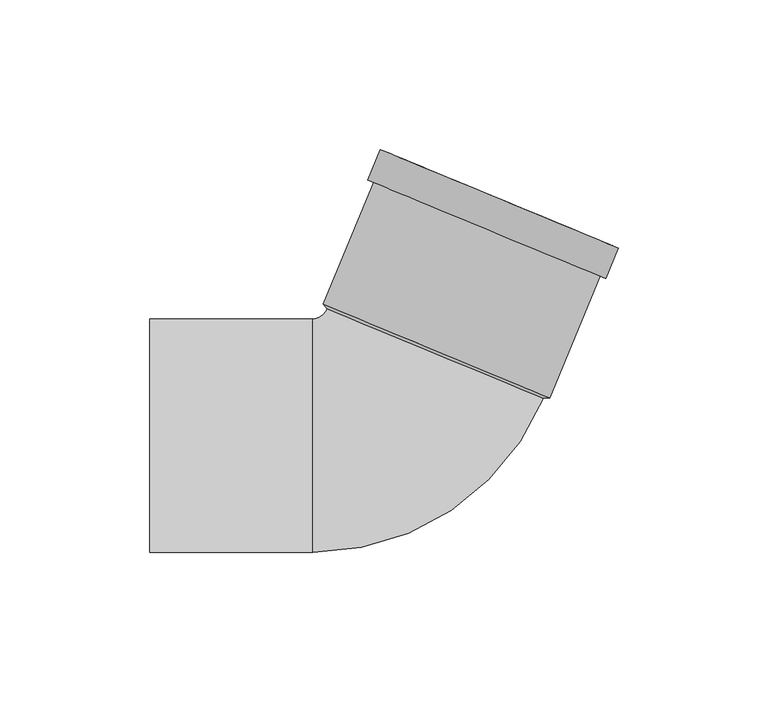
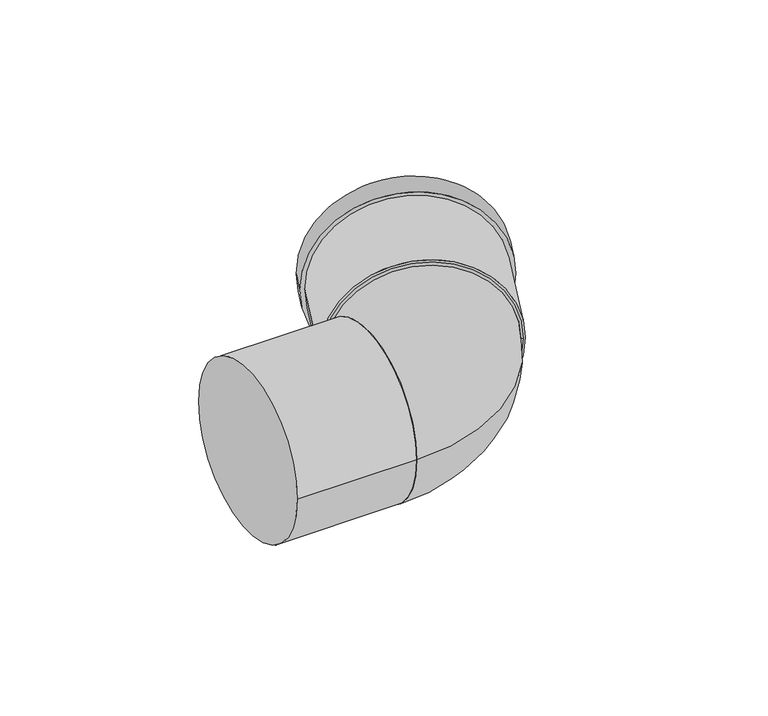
"""IFC4 building model written with IfcOpenShell, lengths in millimetres: pipe fitting geometry, Superdrain SKB Bend : Superdrain SKB Bend."""

from ifc_helpers import new_model, si_unit, point, frame, origin, origin_2d, place, context, project, spatial, polyline, circle_curve, ellipse_curve, trimmed, segment, composite_curve, outline, extrude, source, transform, mapped, element, save
from ifc_brep_helpers import plane_surface, revolved_surface, advanced_brep


def pipe_fitting_f1652b02(model_context):
    return source(origin(), model_context, "Body", "SolidModel", [
        advanced_brep(
        [(47.3587314, 12.4221803, 0.0), (-24.7038722, 42.271488, 0.0), (-29.6, -39.0, 0.0), (-29.6, 39.0, 0.0)],
        [
            (0, 1, circle_curve(frame((11.3274296, 27.3468342, 0.0), z_axis=(0.38268343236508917, 0.923879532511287, 0.0), x_axis=(-0.923879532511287, 0.38268343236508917, 0.0)), 39.0)),
            (1, 0, circle_curve(frame((11.3274296, 27.3468342, 0.0), z_axis=(0.38268343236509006, 0.9238795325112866, 0.0), x_axis=(-0.9238795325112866, 0.38268343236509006, 0.0)), 39.0)),
            (2, 3, circle_curve(frame((-29.6, 0.0, 0.0), z_axis=(-1.0, 0.0, 0.0), x_axis=(0.0, 1.0, 0.0)), 39.0)),
            (3, 2, circle_curve(frame((-29.6, 0.0, 0.0), z_axis=(-1.0, 0.0, 0.0), x_axis=(0.0, 1.0, 0.0)), 39.0)),
            (3, 1, circle_curve(frame((-29.6, 44.2995306, 0.0), z_axis=(0.0, 0.0, 1.0), x_axis=(1.0, 0.0, 0.0)), 5.2995306)),
            (0, 2, circle_curve(frame((-29.6, 44.2995306, 0.0), z_axis=(0.0, 0.0, -1.0), x_axis=(1.0, 0.0, 0.0)), 83.2995306)),
        ],
        [
            plane_surface(frame((11.3274296, 27.3468342, 0.0), z_axis=(0.38268343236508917, 0.9238795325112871, 0.0), x_axis=(0.0, 0.0, -1.0))),
            plane_surface(frame((-29.6, 0.0, 0.0), z_axis=(-1.0, 0.0, 0.0), x_axis=(0.0, 0.0, -1.0))),
            revolved_surface(trimmed(ellipse_curve(frame((14.6995306, 44.2995306, 0.0), z_axis=(0.0, -1.0, 0.0), x_axis=(-1.0, 0.0, 0.0)), 39.0, 39.0), [point((-24.3004694, 44.2995306, 0.0))], [point((53.6995306, 44.2995306, 0.0))], True, "CARTESIAN"), (-29.6, 44.2995306, 0.0), (0.0, 0.0, 1.0)),
            revolved_surface(trimmed(ellipse_curve(frame((14.6995306, 44.2995306, 0.0), z_axis=(0.0, -1.0, 0.0), x_axis=(-1.0, 0.0, 0.0)), 39.0, 39.0), [point((53.6995306, 44.2995306, 0.0))], [point((-24.3004694, 44.2995306, 0.0))], True, "CARTESIAN"), (-29.6, 44.2995306, 0.0), (0.0, 0.0, 1.0)),
        ],
        [
            (0, [[1, 2]]),
            (1, [[3, 4]]),
            (2, [[-4, 5, -1, 6]]),
            (3, [[-3, -6, -2, -5]]),
        ],
    ),
        extrude(outline(composite_curve([segment(trimmed(circle_curve(origin_2d(), 40.95), [point((0.0, 40.9500001))], [point((0.0, -40.95))], False, "CARTESIAN"), True, "CONTINUOUS"), segment(trimmed(circle_curve(origin_2d(), 40.95), [point((0.0, -40.95))], [point((0.0, 40.9500001))], False, "CARTESIAN"), True, "CONTINUOUS")], self_intersect=False), holes=[composite_curve([segment(trimmed(circle_curve(origin_2d(), 39.0), [point((0.0, 39.0))], [point((0.0, -39.0))], True, "CARTESIAN"), True, "CONTINUOUS"), segment(trimmed(circle_curve(origin_2d(), 39.0), [point((0.0, -39.0))], [point((0.0, 39.0))], True, "CARTESIAN"), True, "CONTINUOUS")], self_intersect=False)]), frame((11.710113, 28.2707137, 0.0), z_axis=(0.38268343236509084, 0.9238795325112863, 0.0), x_axis=(0.0, 0.0, 1.0)), (0.0, 0.0, 1.0), 55.0),
        extrude(outline(composite_curve([segment(trimmed(circle_curve(origin_2d(), 42.9975), [point((0.0, -42.9975))], [point((0.0, 42.9975))], False, "CARTESIAN"), True, "CONTINUOUS"), segment(trimmed(circle_curve(origin_2d(), 42.9975), [point((0.0, 42.9975))], [point((0.0, -42.9975))], False, "CARTESIAN"), True, "CONTINUOUS")], self_intersect=False), holes=[composite_curve([segment(trimmed(circle_curve(origin_2d(), 39.0), [point((0.0, -39.0))], [point((0.0, 38.9999999))], True, "CARTESIAN"), True, "CONTINUOUS"), segment(trimmed(circle_curve(origin_2d(), 39.0), [point((0.0, 38.9999999))], [point((0.0, -39.0))], True, "CARTESIAN"), True, "CONTINUOUS")], self_intersect=False)]), frame((28.5481841, 68.9214131, 0.0), z_axis=(0.382683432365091, 0.9238795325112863, 0.0), x_axis=(0.0, 0.0, 1.0)), (0.0, 0.0, 1.0), 11.0),
        advanced_brep(
        [(49.5429799, 12.5998271, 0.0), (-26.1227538, 43.9416003, 0.0), (47.3587314, 12.4221803, 0.0), (-24.7038722, 42.271488, 0.0)],
        [
            (0, 1, circle_curve(frame((11.710113, 28.2707137, 0.0), z_axis=(0.3826834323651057, 0.9238795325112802, 0.0), x_axis=(0.9238795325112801, -0.3826834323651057, 0.0)), 40.95)),
            (1, 0, circle_curve(frame((11.710113, 28.2707137, 0.0), z_axis=(0.3826834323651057, 0.9238795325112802, 0.0), x_axis=(-0.9238795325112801, 0.3826834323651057, 0.0)), 40.95)),
            (2, 3, circle_curve(frame((11.3274296, 27.3468342, 0.0), z_axis=(-0.3826834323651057, -0.9238795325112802, 0.0), x_axis=(-0.9238795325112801, 0.3826834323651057, 0.0)), 39.0)),
            (3, 2, circle_curve(frame((11.3274296, 27.3468342, 0.0), z_axis=(-0.3826834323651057, -0.9238795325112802, 0.0), x_axis=(0.9238795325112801, -0.3826834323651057, 0.0)), 39.0)),
            (3, 1),
            (0, 2),
        ],
        [
            plane_surface(frame((11.710113, 28.2707137, 0.0), z_axis=(0.3826834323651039, 0.923879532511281, 0.0), x_axis=(0.0, 0.0, -1.0))),
            plane_surface(frame((11.3274296, 27.3468342, 0.0), z_axis=(-0.3826834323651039, -0.923879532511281, 0.0), x_axis=(0.0, 0.0, -1.0))),
            revolved_surface(polyline([(-24.7038720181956, 42.271487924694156, 0.0), (-26.1227538, 43.94160029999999, 0.0)]), (3.673761, 8.8692435, 0.0), (0.3826834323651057, 0.9238795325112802, 0.0)),
            revolved_surface(polyline([(47.35873137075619, 12.422180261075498, 0.0), (49.54298009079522, 12.599827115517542, 0.0)]), (3.673761, 8.8692435, 0.0), (0.3826834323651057, 0.9238795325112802, 0.0)),
        ],
        [
            (0, [[1, 2]]),
            (1, [[3, 4]]),
            (2, [[-4, 5, -1, 6]]),
            (3, [[-3, -6, -2, -5]]),
        ],
    ),
        extrude(outline(composite_curve([segment(trimmed(circle_curve(origin_2d(), 39.0), [point((-39.0, 0.0))], [point((39.0, 0.0))], False, "CARTESIAN"), True, "CONTINUOUS"), segment(trimmed(circle_curve(origin_2d(), 39.0), [point((39.0, 0.0))], [point((-39.0, 0.0))], False, "CARTESIAN"), True, "CONTINUOUS")], self_intersect=False)), frame((-84.0, 0.0, 0.0), z_axis=(1.0, 0.0, 0.0), x_axis=(0.0, 1.0, 0.0)), (0.0, 0.0, 1.0), 54.4),
    ])


if __name__ == "__main__":
    model = new_model("IFC4")
    model_context = context("Model", 3, world=origin())
    ifc_project = project(units=[si_unit("LENGTHUNIT", "METRE", prefix="MILLI")], contexts=[model_context])
    site = spatial("IfcSite", under=ifc_project)
    building = spatial("IfcBuilding", under=site)
    placement = place(None, origin())
    pipe_fitting_shape = pipe_fitting_f1652b02(model_context)
    element("IfcPipeFitting", 1, ObjectType="Superdrain SKB Bend : Superdrain SKB Bend", at=placement, inside=building, context=model_context, shape_type="MappedRepresentation", body=[
        mapped(pipe_fitting_shape, transform((0.0, 0.0, 0.0), x_axis=(1.0, 0.0, 0.0), y_axis=(0.0, 1.0, 0.0), z_axis=(0.0, 0.0, 1.0))),
    ])
    save(model, "model.ifc")
